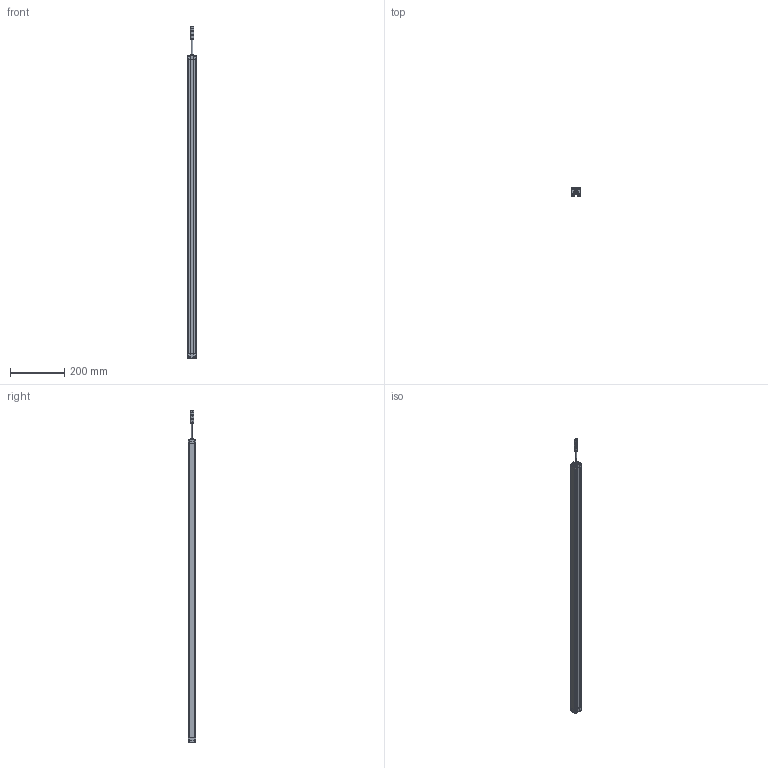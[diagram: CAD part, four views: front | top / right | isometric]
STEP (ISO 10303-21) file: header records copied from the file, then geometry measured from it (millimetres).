
FILE_DESCRIPTION((''),'2;1');
FILE_NAME('SMT1-CGQ_ASM','2025-08-08T08:38:01',('Administrator'),(''),'CREO PARAMETRIC BY PTC INC, 2016510','CREO PARAMETRIC BY PTC INC, 2016510','');
FILE_SCHEMA(('CONFIG_CONTROL_DESIGN'));
Length unit declared in the file: millimetre
Products named in the file (7): SMT1-XINGCAI-V1; SMT1-SDG-V1; SMT1-XDG-V1; M12-CHATOU; ST3X18; CT4-LVGUANGBAN; SMT1-CGQ_ASM
Assembly tree (13 placements, depth 2):
  SMT1-CGQ_ASM
    SMT1-XINGCAI-V1
    SMT1-SDG-V1
    SMT1-XDG-V1
    M12-CHATOU
    ST3X18  x8
    CT4-LVGUANGBAN
Bounding box: 33 x 28.02 x 1219.5 mm (x, y, z)
Volume: 860072.8 mm3; surface area: 276950.9 mm2
Topology: 13 solids, 13 shells, 712 faces, 1868 edges, 1200 vertices
Faces by surface type: plane 382, cylinder 184, extrusion 86, sphere 32, cone 20, bspline 8
Entity records: 18128 total; most frequent: CARTESIAN_POINT 4347, ORIENTED_EDGE 2916, DIRECTION 2580, EDGE_CURVE 1458, VECTOR 1036, VERTEX_POINT 955, LINE 950, AXIS2_PLACEMENT_3D 772
